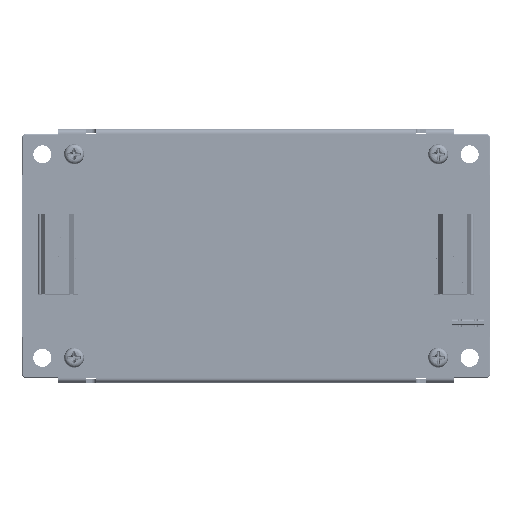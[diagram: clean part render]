
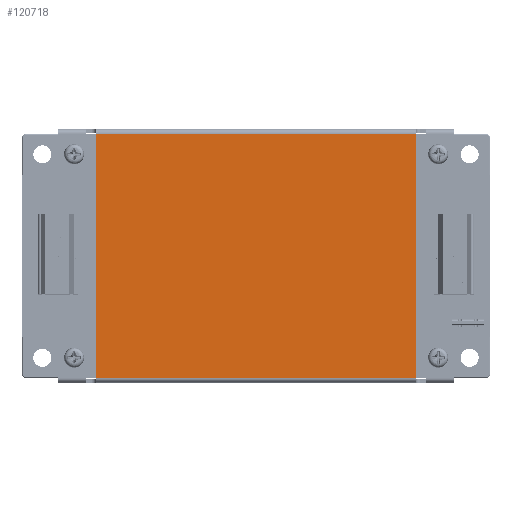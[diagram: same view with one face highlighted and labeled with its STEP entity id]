
A CAD part, top view. The second image highlights one B-rep face of the part: STEP entity #120718.
In plain terms, the highlighted planar face has unit normal (0, 0, 1).
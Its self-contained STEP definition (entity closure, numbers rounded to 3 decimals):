
#5047 = VECTOR ( 'NONE', #230443, 1000. ) ;
#7746 = CARTESIAN_POINT ( 'NONE',  ( -23.012, -20.253, 16.7 ) ) ;
#22612 = CARTESIAN_POINT ( 'NONE',  ( 56.988, 40.707, 16.7 ) ) ;
#29426 = LINE ( 'NONE', #80901, #81923 ) ;
#42709 = ORIENTED_EDGE ( 'NONE', *, *, #263847, .T. ) ;
#47098 = DIRECTION ( 'NONE',  ( 1., 0., 0. ) ) ;
#58350 = DIRECTION ( 'NONE',  ( 0., 0., 1. ) ) ;
#75738 = LINE ( 'NONE', #22612, #209767 ) ;
#76103 = ORIENTED_EDGE ( 'NONE', *, *, #101134, .T. ) ;
#77383 = EDGE_CURVE ( 'NONE', #262471, #147859, #75738, .T. ) ;
#80901 = CARTESIAN_POINT ( 'NONE',  ( 56.988, -20.453, 16.7 ) ) ;
#81923 = VECTOR ( 'NONE', #177316, 1000. ) ;
#101134 = EDGE_CURVE ( 'NONE', #160968, #153939, #198244, .T. ) ;
#106246 = VECTOR ( 'NONE', #47098, 1000. ) ;
#106475 = CARTESIAN_POINT ( 'NONE',  ( 56.988, 40.707, 16.7 ) ) ;
#119578 = EDGE_LOOP ( 'NONE', ( #42709, #290704, #231945, #76103 ) ) ;
#120718 = ADVANCED_FACE ( 'NONE', ( #140945 ), #256068, .T. ) ;
#140945 = FACE_OUTER_BOUND ( 'NONE', #119578, .T. ) ;
#143538 = CARTESIAN_POINT ( 'NONE',  ( -23.012, -20.253, 16.7 ) ) ;
#147859 = VERTEX_POINT ( 'NONE', #294428 ) ;
#153939 = VERTEX_POINT ( 'NONE', #234372 ) ;
#154792 = CARTESIAN_POINT ( 'NONE',  ( -23.012, -20.453, 16.7 ) ) ;
#160968 = VERTEX_POINT ( 'NONE', #7746 ) ;
#177316 = DIRECTION ( 'NONE',  ( 0., 1., 0. ) ) ;
#184486 = LINE ( 'NONE', #278644, #5047 ) ;
#198244 = LINE ( 'NONE', #143538, #106246 ) ;
#208958 = AXIS2_PLACEMENT_3D ( 'NONE', #154792, #58350, #240556 ) ;
#209767 = VECTOR ( 'NONE', #326553, 1000. ) ;
#211117 = EDGE_CURVE ( 'NONE', #160968, #147859, #184486, .T. ) ;
#230443 = DIRECTION ( 'NONE',  ( 0., 1., 0. ) ) ;
#231945 = ORIENTED_EDGE ( 'NONE', *, *, #211117, .F. ) ;
#234372 = CARTESIAN_POINT ( 'NONE',  ( 56.988, -20.253, 16.7 ) ) ;
#240556 = DIRECTION ( 'NONE',  ( 0., -1., 0. ) ) ;
#256068 = PLANE ( 'NONE',  #208958 ) ;
#262471 = VERTEX_POINT ( 'NONE', #106475 ) ;
#263847 = EDGE_CURVE ( 'NONE', #153939, #262471, #29426, .T. ) ;
#278644 = CARTESIAN_POINT ( 'NONE',  ( -23.012, -20.453, 16.7 ) ) ;
#290704 = ORIENTED_EDGE ( 'NONE', *, *, #77383, .T. ) ;
#294428 = CARTESIAN_POINT ( 'NONE',  ( -23.012, 40.707, 16.7 ) ) ;
#326553 = DIRECTION ( 'NONE',  ( -1., 0., 0. ) ) ;
